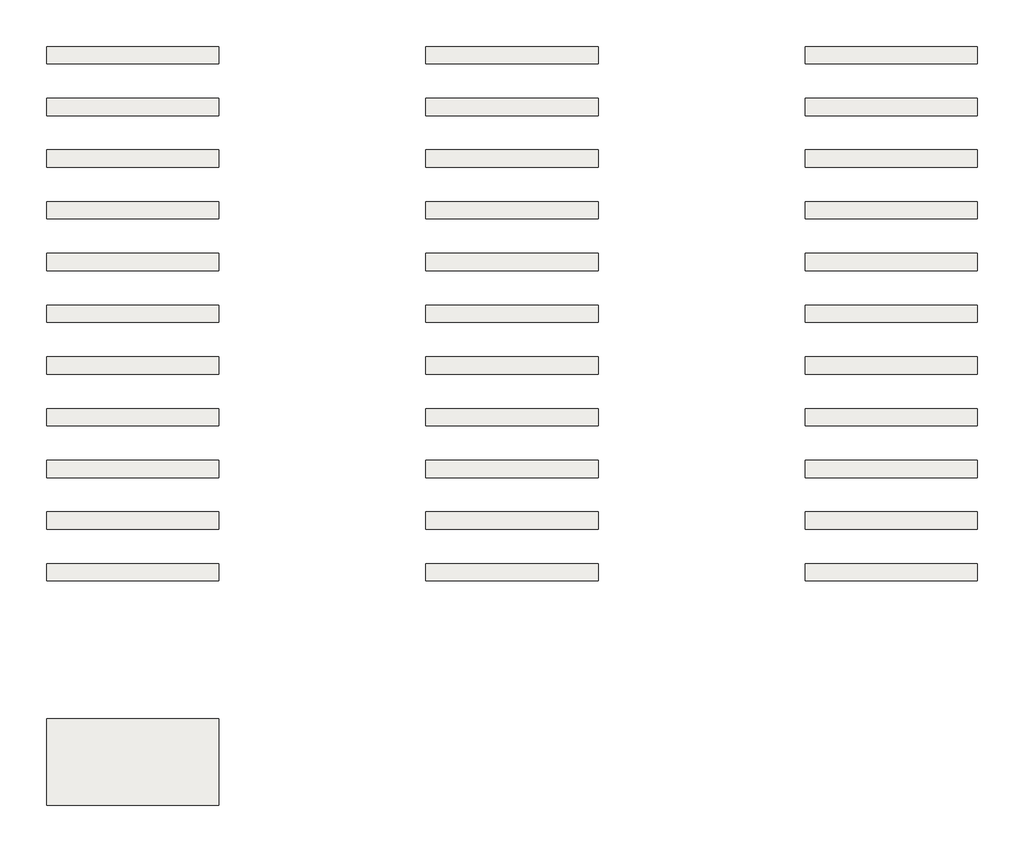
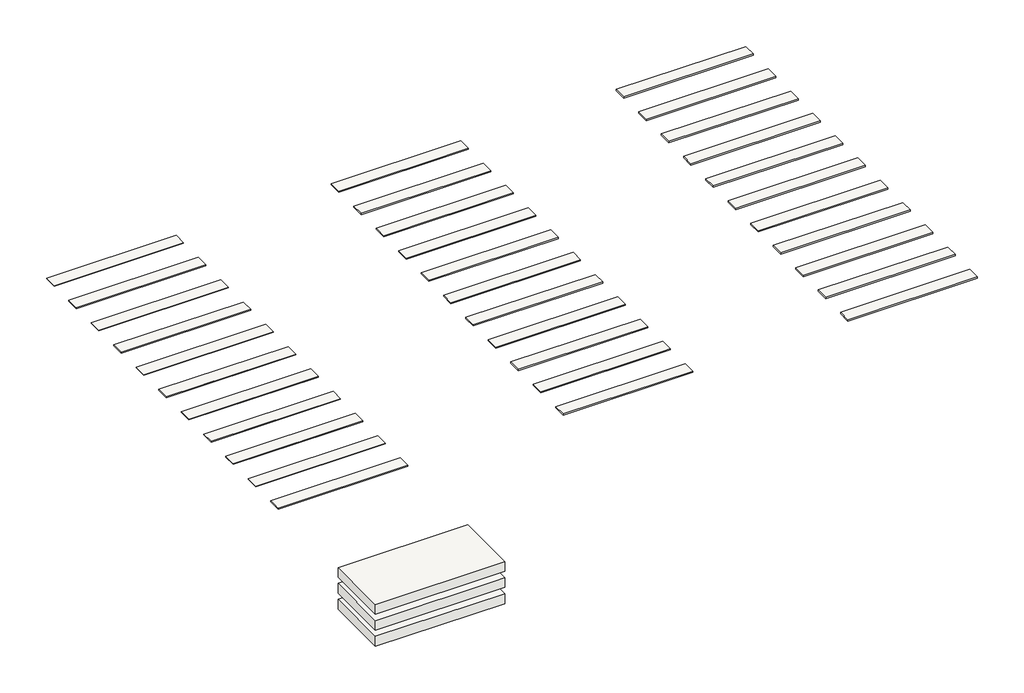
# One storey: 36 coverings.
"""IFC4 building model written with IfcOpenShell, lengths in millimetres."""

from ifc_helpers import new_model, si_unit, frame, origin, place, context, project, spatial, polyline, outline, extrude, element, save

model = new_model("IFC4")

# Units and contexts
model_context = context("Model", 3, world=origin())
ifc_project = project(units=[si_unit("LENGTHUNIT", "METRE", prefix="MILLI")], contexts=[model_context])

# Site, building, storey
site = spatial("IfcSite", under=ifc_project)
building = spatial("IfcBuilding", under=site)
storey = spatial("IfcBuildingStorey", under=building, Name="Sika® Ucrete® UD 200 en sustrato", Elevation=0.0)

# Coverings
placement = place(None, origin())
element("IfcCovering", 1, ObjectType="Sika® Ucrete® UD 200 6 mm en sustrato", at=placement, inside=storey, context=model_context, shape_type="SweptSolid", body=[
    extrude(outline(polyline([(2928.6266869, 3777.4105026), (2928.6266869, 3277.4105026), (1928.6266869, 3277.4105026), (1928.6266869, 3777.4105026), (2928.6266869, 3777.4105026)])), frame((0.0, 0.0, -76.0), z_axis=(0.0, 0.0, 1.0), x_axis=(1.0, 0.0, 0.0)), (0.0, 0.0, 1.0), 76.0),
])
element("IfcCovering", 2, ObjectType="Sika® Ucrete® UD 200 6 mm (Cream)", at=placement, inside=storey, context=model_context, shape_type="SweptSolid", body=[
    extrude(outline(polyline([(2928.6266869, 6477.4105026), (2928.6266869, 6377.4105026), (1928.6266869, 6377.4105026), (1928.6266869, 6477.4105026), (2928.6266869, 6477.4105026)])), frame((0.0, 0.0, -6.0), z_axis=(0.0, 0.0, 1.0), x_axis=(1.0, 0.0, 0.0)), (0.0, 0.0, 1.0), 6.0),
])
element("IfcCovering", 3, ObjectType="Sika® Ucrete® UD 200 6 mm (Bright Yellow)", at=placement, inside=storey, context=model_context, shape_type="SweptSolid", body=[
    extrude(outline(polyline([(2928.6266869, 6777.4105026), (2928.6266869, 6677.4105026), (1928.6266869, 6677.4105026), (1928.6266869, 6777.4105026), (2928.6266869, 6777.4105026)])), frame((0.0, 0.0, -6.0), z_axis=(0.0, 0.0, 1.0), x_axis=(1.0, 0.0, 0.0)), (0.0, 0.0, 1.0), 6.0),
])
element("IfcCovering", 4, ObjectType="Sika® Ucrete® UD 200 6 mm (Yellow)", at=placement, inside=storey, context=model_context, shape_type="SweptSolid", body=[
    extrude(outline(polyline([(2928.6266869, 7077.4105026), (2928.6266869, 6977.4105026), (1928.6266869, 6977.4105026), (1928.6266869, 7077.4105026), (2928.6266869, 7077.4105026)])), frame((0.0, 0.0, -6.0), z_axis=(0.0, 0.0, 1.0), x_axis=(1.0, 0.0, 0.0)), (0.0, 0.0, 1.0), 6.0),
])
element("IfcCovering", 5, ObjectType="Sika® Ucrete® UD 200 6 mm (Orange)", at=placement, inside=storey, context=model_context, shape_type="SweptSolid", body=[
    extrude(outline(polyline([(2928.6266869, 7377.4105026), (2928.6266869, 7277.4105026), (1928.6266869, 7277.4105026), (1928.6266869, 7377.4105026), (2928.6266869, 7377.4105026)])), frame((0.0, 0.0, -6.0), z_axis=(0.0, 0.0, 1.0), x_axis=(1.0, 0.0, 0.0)), (0.0, 0.0, 1.0), 6.0),
])
element("IfcCovering", 6, ObjectType="Sika® Ucrete® UD 200 6 mm (Red)", at=placement, inside=storey, context=model_context, shape_type="SweptSolid", body=[
    extrude(outline(polyline([(2928.6266869, 7677.4105026), (2928.6266869, 7577.4105026), (1928.6266869, 7577.4105026), (1928.6266869, 7677.4105026), (2928.6266869, 7677.4105026)])), frame((0.0, 0.0, -6.0), z_axis=(0.0, 0.0, 1.0), x_axis=(1.0, 0.0, 0.0)), (0.0, 0.0, 1.0), 6.0),
])
element("IfcCovering", 7, ObjectType="Sika® Ucrete® UD 200 9 mm en sustrato", at=placement, inside=storey, context=model_context, shape_type="SweptSolid", body=[
    extrude(outline(polyline([(2928.6266869, 3777.4105026), (2928.6266869, 3277.4105026), (1928.6266869, 3277.4105026), (1928.6266869, 3777.4105026), (2928.6266869, 3777.4105026)])), frame((0.0, 0.0, -207.75), z_axis=(0.0, 0.0, 1.0), x_axis=(1.0, 0.0, 0.0)), (0.0, 0.0, 1.0), 79.0),
])
element("IfcCovering", 8, ObjectType="Sika® Ucrete® UD 200 12 mm en sustrato", at=placement, inside=storey, context=model_context, shape_type="SweptSolid", body=[
    extrude(outline(polyline([(2928.6266869, 3777.4105026), (2928.6266869, 3277.4105026), (1928.6266869, 3277.4105026), (1928.6266869, 3777.4105026), (2928.6266869, 3777.4105026)])), frame((0.0, 0.0, -339.5), z_axis=(0.0, 0.0, 1.0), x_axis=(1.0, 0.0, 0.0)), (0.0, 0.0, 1.0), 82.0),
])
element("IfcCovering", 9, ObjectType="Sika® Ucrete® UD 200 6 mm (Grey)", at=placement, inside=storey, context=model_context, shape_type="SweptSolid", body=[
    extrude(outline(polyline([(2928.6266869, 6177.4105026), (2928.6266869, 6077.4105026), (1928.6266869, 6077.4105026), (1928.6266869, 6177.4105026), (2928.6266869, 6177.4105026)])), frame((0.0, 0.0, -6.0), z_axis=(0.0, 0.0, 1.0), x_axis=(1.0, 0.0, 0.0)), (0.0, 0.0, 1.0), 6.0),
])
element("IfcCovering", 10, ObjectType="Sika® Ucrete® UD 200 6 mm (Light Grey)", at=placement, inside=storey, context=model_context, shape_type="SweptSolid", body=[
    extrude(outline(polyline([(2928.6266869, 5877.4105026), (2928.6266869, 5777.4105026), (1928.6266869, 5777.4105026), (1928.6266869, 5877.4105026), (2928.6266869, 5877.4105026)])), frame((0.0, 0.0, -6.0), z_axis=(0.0, 0.0, 1.0), x_axis=(1.0, 0.0, 0.0)), (0.0, 0.0, 1.0), 6.0),
])
element("IfcCovering", 11, ObjectType="Sika® Ucrete® UD 200 6 mm (Green)", at=placement, inside=storey, context=model_context, shape_type="SweptSolid", body=[
    extrude(outline(polyline([(2928.6266869, 5577.4105026), (2928.6266869, 5477.4105026), (1928.6266869, 5477.4105026), (1928.6266869, 5577.4105026), (2928.6266869, 5577.4105026)])), frame((0.0, 0.0, -6.0), z_axis=(0.0, 0.0, 1.0), x_axis=(1.0, 0.0, 0.0)), (0.0, 0.0, 1.0), 6.0),
])
element("IfcCovering", 12, ObjectType="Sika® Ucrete® UD 200 6 mm (Light Green)", at=placement, inside=storey, context=model_context, shape_type="SweptSolid", body=[
    extrude(outline(polyline([(2928.6266869, 5277.4105026), (2928.6266869, 5177.4105026), (1928.6266869, 5177.4105026), (1928.6266869, 5277.4105026), (2928.6266869, 5277.4105026)])), frame((0.0, 0.0, -6.0), z_axis=(0.0, 0.0, 1.0), x_axis=(1.0, 0.0, 0.0)), (0.0, 0.0, 1.0), 6.0),
])
element("IfcCovering", 13, ObjectType="Sika® Ucrete® UD 200 6 mm (Green/Brown)", at=placement, inside=storey, context=model_context, shape_type="SweptSolid", body=[
    extrude(outline(polyline([(2928.6266869, 4977.4105026), (2928.6266869, 4877.4105026), (1928.6266869, 4877.4105026), (1928.6266869, 4977.4105026), (2928.6266869, 4977.4105026)])), frame((0.0, 0.0, -6.0), z_axis=(0.0, 0.0, 1.0), x_axis=(1.0, 0.0, 0.0)), (0.0, 0.0, 1.0), 6.0),
])
element("IfcCovering", 14, ObjectType="Sika® Ucrete® UD 200 9 mm (Cream)", at=placement, inside=storey, context=model_context, shape_type="SweptSolid", body=[
    extrude(outline(polyline([(5128.6266869, 6477.4105026), (5128.6266869, 6377.4105026), (4128.6266869, 6377.4105026), (4128.6266869, 6477.4105026), (5128.6266869, 6477.4105026)])), frame((0.0, 0.0, -9.0), z_axis=(0.0, 0.0, 1.0), x_axis=(1.0, 0.0, 0.0)), (0.0, 0.0, 1.0), 9.0),
])
element("IfcCovering", 15, ObjectType="Sika® Ucrete® UD 200 9 mm (Bright Yellow)", at=placement, inside=storey, context=model_context, shape_type="SweptSolid", body=[
    extrude(outline(polyline([(5128.6266869, 6777.4105026), (5128.6266869, 6677.4105026), (4128.6266869, 6677.4105026), (4128.6266869, 6777.4105026), (5128.6266869, 6777.4105026)])), frame((0.0, 0.0, -9.0), z_axis=(0.0, 0.0, 1.0), x_axis=(1.0, 0.0, 0.0)), (0.0, 0.0, 1.0), 9.0),
])
element("IfcCovering", 16, ObjectType="Sika® Ucrete® UD 200 9 mm (Yellow)", at=placement, inside=storey, context=model_context, shape_type="SweptSolid", body=[
    extrude(outline(polyline([(5128.6266869, 7077.4105026), (5128.6266869, 6977.4105026), (4128.6266869, 6977.4105026), (4128.6266869, 7077.4105026), (5128.6266869, 7077.4105026)])), frame((0.0, 0.0, -9.0), z_axis=(0.0, 0.0, 1.0), x_axis=(1.0, 0.0, 0.0)), (0.0, 0.0, 1.0), 9.0),
])
element("IfcCovering", 17, ObjectType="Sika® Ucrete® UD 200 9 mm (Orange)", at=placement, inside=storey, context=model_context, shape_type="SweptSolid", body=[
    extrude(outline(polyline([(5128.6266869, 7377.4105026), (5128.6266869, 7277.4105026), (4128.6266869, 7277.4105026), (4128.6266869, 7377.4105026), (5128.6266869, 7377.4105026)])), frame((0.0, 0.0, -9.0), z_axis=(0.0, 0.0, 1.0), x_axis=(1.0, 0.0, 0.0)), (0.0, 0.0, 1.0), 9.0),
])
element("IfcCovering", 18, ObjectType="Sika® Ucrete® UD 200 9 mm (Red)", at=placement, inside=storey, context=model_context, shape_type="SweptSolid", body=[
    extrude(outline(polyline([(5128.6266869, 7677.4105026), (5128.6266869, 7577.4105026), (4128.6266869, 7577.4105026), (4128.6266869, 7677.4105026), (5128.6266869, 7677.4105026)])), frame((0.0, 0.0, -9.0), z_axis=(0.0, 0.0, 1.0), x_axis=(1.0, 0.0, 0.0)), (0.0, 0.0, 1.0), 9.0),
])
element("IfcCovering", 19, ObjectType="Sika® Ucrete® UD 200 9 mm (Grey)", at=placement, inside=storey, context=model_context, shape_type="SweptSolid", body=[
    extrude(outline(polyline([(5128.6266869, 6177.4105026), (5128.6266869, 6077.4105026), (4128.6266869, 6077.4105026), (4128.6266869, 6177.4105026), (5128.6266869, 6177.4105026)])), frame((0.0, 0.0, -9.0), z_axis=(0.0, 0.0, 1.0), x_axis=(1.0, 0.0, 0.0)), (0.0, 0.0, 1.0), 9.0),
])
element("IfcCovering", 20, ObjectType="Sika® Ucrete® UD 200 9 mm (Light Grey)", at=placement, inside=storey, context=model_context, shape_type="SweptSolid", body=[
    extrude(outline(polyline([(5128.6266869, 5877.4105026), (5128.6266869, 5777.4105026), (4128.6266869, 5777.4105026), (4128.6266869, 5877.4105026), (5128.6266869, 5877.4105026)])), frame((0.0, 0.0, -9.0), z_axis=(0.0, 0.0, 1.0), x_axis=(1.0, 0.0, 0.0)), (0.0, 0.0, 1.0), 9.0),
])
element("IfcCovering", 21, ObjectType="Sika® Ucrete® UD 200 9 mm (Green)", at=placement, inside=storey, context=model_context, shape_type="SweptSolid", body=[
    extrude(outline(polyline([(5128.6266869, 5577.4105026), (5128.6266869, 5477.4105026), (4128.6266869, 5477.4105026), (4128.6266869, 5577.4105026), (5128.6266869, 5577.4105026)])), frame((0.0, 0.0, -9.0), z_axis=(0.0, 0.0, 1.0), x_axis=(1.0, 0.0, 0.0)), (0.0, 0.0, 1.0), 9.0),
])
element("IfcCovering", 22, ObjectType="Sika® Ucrete® UD 200 9 mm (Green/Brown)", at=placement, inside=storey, context=model_context, shape_type="SweptSolid", body=[
    extrude(outline(polyline([(5128.6266869, 4977.4105026), (5128.6266869, 4877.4105026), (4128.6266869, 4877.4105026), (4128.6266869, 4977.4105026), (5128.6266869, 4977.4105026)])), frame((0.0, 0.0, -9.0), z_axis=(0.0, 0.0, 1.0), x_axis=(1.0, 0.0, 0.0)), (0.0, 0.0, 1.0), 9.0),
])
element("IfcCovering", 23, ObjectType="Sika® Ucrete® UD 200 9 mm (Blue)", at=placement, inside=storey, context=model_context, shape_type="SweptSolid", body=[
    extrude(outline(polyline([(5128.6266869, 4677.4105026), (5128.6266869, 4577.4105026), (4128.6266869, 4577.4105026), (4128.6266869, 4677.4105026), (5128.6266869, 4677.4105026)])), frame((0.0, 0.0, -9.0), z_axis=(0.0, 0.0, 1.0), x_axis=(1.0, 0.0, 0.0)), (0.0, 0.0, 1.0), 9.0),
])
element("IfcCovering", 24, ObjectType="Sika® Ucrete® UD 200 12 mm (Cream)", at=placement, inside=storey, context=model_context, shape_type="SweptSolid", body=[
    extrude(outline(polyline([(7328.6266869, 6477.4105026), (7328.6266869, 6377.4105026), (6328.6266869, 6377.4105026), (6328.6266869, 6477.4105026), (7328.6266869, 6477.4105026)])), frame((0.0, 0.0, -12.0), z_axis=(0.0, 0.0, 1.0), x_axis=(1.0, 0.0, 0.0)), (0.0, 0.0, 1.0), 12.0),
])
element("IfcCovering", 25, ObjectType="Sika® Ucrete® UD 200 12 mm (Bright Yellow)", at=placement, inside=storey, context=model_context, shape_type="SweptSolid", body=[
    extrude(outline(polyline([(7328.6266869, 6777.4105026), (7328.6266869, 6677.4105026), (6328.6266869, 6677.4105026), (6328.6266869, 6777.4105026), (7328.6266869, 6777.4105026)])), frame((0.0, 0.0, -12.0), z_axis=(0.0, 0.0, 1.0), x_axis=(1.0, 0.0, 0.0)), (0.0, 0.0, 1.0), 12.0),
])
element("IfcCovering", 26, ObjectType="Sika® Ucrete® UD 200 12 mm (Yellow)", at=placement, inside=storey, context=model_context, shape_type="SweptSolid", body=[
    extrude(outline(polyline([(7328.6266869, 7077.4105026), (7328.6266869, 6977.4105026), (6328.6266869, 6977.4105026), (6328.6266869, 7077.4105026), (7328.6266869, 7077.4105026)])), frame((0.0, 0.0, -12.0), z_axis=(0.0, 0.0, 1.0), x_axis=(1.0, 0.0, 0.0)), (0.0, 0.0, 1.0), 12.0),
])
element("IfcCovering", 27, ObjectType="Sika® Ucrete® UD 200 12 mm (Orange)", at=placement, inside=storey, context=model_context, shape_type="SweptSolid", body=[
    extrude(outline(polyline([(7328.6266869, 7377.4105026), (7328.6266869, 7277.4105026), (6328.6266869, 7277.4105026), (6328.6266869, 7377.4105026), (7328.6266869, 7377.4105026)])), frame((0.0, 0.0, -12.0), z_axis=(0.0, 0.0, 1.0), x_axis=(1.0, 0.0, 0.0)), (0.0, 0.0, 1.0), 12.0),
])
element("IfcCovering", 28, ObjectType="Sika® Ucrete® UD 200 12 mm (Red)", at=placement, inside=storey, context=model_context, shape_type="SweptSolid", body=[
    extrude(outline(polyline([(7328.6266869, 7677.4105026), (7328.6266869, 7577.4105026), (6328.6266869, 7577.4105026), (6328.6266869, 7677.4105026), (7328.6266869, 7677.4105026)])), frame((0.0, 0.0, -12.0), z_axis=(0.0, 0.0, 1.0), x_axis=(1.0, 0.0, 0.0)), (0.0, 0.0, 1.0), 12.0),
])
element("IfcCovering", 29, ObjectType="Sika® Ucrete® UD 200 12 mm (Grey)", at=placement, inside=storey, context=model_context, shape_type="SweptSolid", body=[
    extrude(outline(polyline([(7328.6266869, 6177.4105026), (7328.6266869, 6077.4105026), (6328.6266869, 6077.4105026), (6328.6266869, 6177.4105026), (7328.6266869, 6177.4105026)])), frame((0.0, 0.0, -12.0), z_axis=(0.0, 0.0, 1.0), x_axis=(1.0, 0.0, 0.0)), (0.0, 0.0, 1.0), 12.0),
])
element("IfcCovering", 30, ObjectType="Sika® Ucrete® UD 200 12 mm (Light Grey)", at=placement, inside=storey, context=model_context, shape_type="SweptSolid", body=[
    extrude(outline(polyline([(7328.6266869, 5877.4105026), (7328.6266869, 5777.4105026), (6328.6266869, 5777.4105026), (6328.6266869, 5877.4105026), (7328.6266869, 5877.4105026)])), frame((0.0, 0.0, -12.0), z_axis=(0.0, 0.0, 1.0), x_axis=(1.0, 0.0, 0.0)), (0.0, 0.0, 1.0), 12.0),
])
element("IfcCovering", 31, ObjectType="Sika® Ucrete® UD 200 12 mm (Green)", at=placement, inside=storey, context=model_context, shape_type="SweptSolid", body=[
    extrude(outline(polyline([(7328.6266869, 5577.4105026), (7328.6266869, 5477.4105026), (6328.6266869, 5477.4105026), (6328.6266869, 5577.4105026), (7328.6266869, 5577.4105026)])), frame((0.0, 0.0, -12.0), z_axis=(0.0, 0.0, 1.0), x_axis=(1.0, 0.0, 0.0)), (0.0, 0.0, 1.0), 12.0),
])
element("IfcCovering", 32, ObjectType="Sika® Ucrete® UD 200 12 mm (Green/Brown)", at=placement, inside=storey, context=model_context, shape_type="SweptSolid", body=[
    extrude(outline(polyline([(7328.6266869, 4977.4105026), (7328.6266869, 4877.4105026), (6328.6266869, 4877.4105026), (6328.6266869, 4977.4105026), (7328.6266869, 4977.4105026)])), frame((0.0, 0.0, -12.0), z_axis=(0.0, 0.0, 1.0), x_axis=(1.0, 0.0, 0.0)), (0.0, 0.0, 1.0), 12.0),
])
element("IfcCovering", 33, ObjectType="Sika® Ucrete® UD 200 12 mm (Blue)", at=placement, inside=storey, context=model_context, shape_type="SweptSolid", body=[
    extrude(outline(polyline([(7328.6266869, 4677.4105026), (7328.6266869, 4577.4105026), (6328.6266869, 4577.4105026), (6328.6266869, 4677.4105026), (7328.6266869, 4677.4105026)])), frame((0.0, 0.0, -12.0), z_axis=(0.0, 0.0, 1.0), x_axis=(1.0, 0.0, 0.0)), (0.0, 0.0, 1.0), 12.0),
])
element("IfcCovering", 34, ObjectType="Sika® Ucrete® UD 200 6 mm (Blue)", at=placement, inside=storey, context=model_context, shape_type="SweptSolid", body=[
    extrude(outline(polyline([(2928.6266869, 4677.4105026), (2928.6266869, 4577.4105026), (1928.6266869, 4577.4105026), (1928.6266869, 4677.4105026), (2928.6266869, 4677.4105026)])), frame((0.0, 0.0, -6.0), z_axis=(0.0, 0.0, 1.0), x_axis=(1.0, 0.0, 0.0)), (0.0, 0.0, 1.0), 6.0),
])
element("IfcCovering", 35, ObjectType="Sika® Ucrete® UD 200 9 mm (Light Green)", at=placement, inside=storey, context=model_context, shape_type="SweptSolid", body=[
    extrude(outline(polyline([(5128.6266869, 5277.4105026), (5128.6266869, 5177.4105026), (4128.6266869, 5177.4105026), (4128.6266869, 5277.4105026), (5128.6266869, 5277.4105026)])), frame((0.0, 0.0, -9.0), z_axis=(0.0, 0.0, 1.0), x_axis=(1.0, 0.0, 0.0)), (0.0, 0.0, 1.0), 9.0),
])
element("IfcCovering", 36, ObjectType="Sika® Ucrete® UD 200 12 mm (Light Green)", at=placement, inside=storey, context=model_context, shape_type="SweptSolid", body=[
    extrude(outline(polyline([(7328.6266869, 5277.4105026), (7328.6266869, 5177.4105026), (6328.6266869, 5177.4105026), (6328.6266869, 5277.4105026), (7328.6266869, 5277.4105026)])), frame((0.0, 0.0, -12.0), z_axis=(0.0, 0.0, 1.0), x_axis=(1.0, 0.0, 0.0)), (0.0, 0.0, 1.0), 12.0),
])

save(model, "model.ifc")
